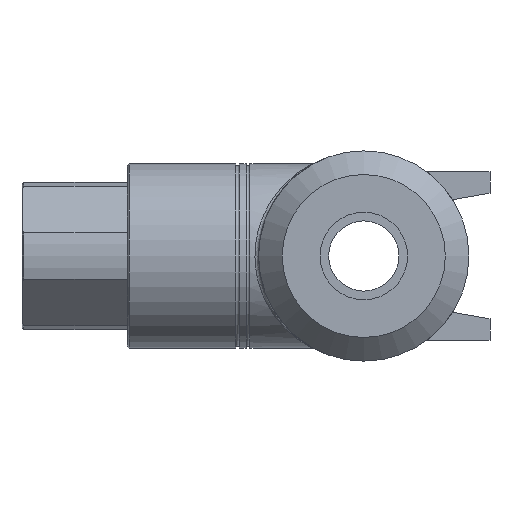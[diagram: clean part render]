
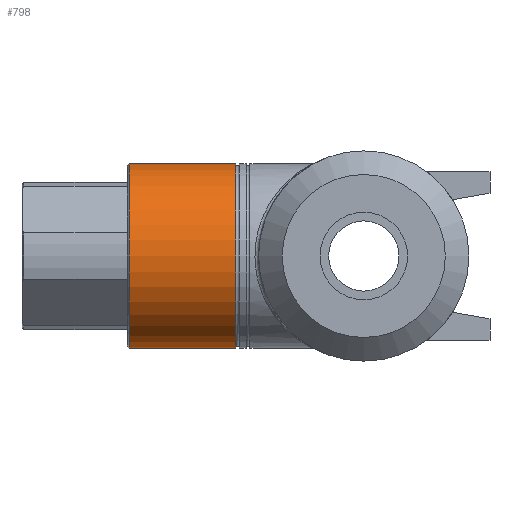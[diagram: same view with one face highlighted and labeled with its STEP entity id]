
A CAD part, left-side view. The second image highlights one B-rep face of the part: STEP entity #798.
In plain terms, the highlighted cylindrical face has radius 35 mm (diameter 70 mm), a full revolution.
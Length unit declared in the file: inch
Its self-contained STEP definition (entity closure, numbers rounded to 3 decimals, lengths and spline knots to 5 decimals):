
#63=CIRCLE('',#885,1.37795);
#64=CIRCLE('',#886,1.37795);
#65=CIRCLE('',#888,1.37795);
#66=CIRCLE('',#889,1.37795);
#67=CIRCLE('',#890,1.37795);
#106=CYLINDRICAL_SURFACE('',#887,1.37795);
#129=FACE_OUTER_BOUND('',#175,.T.);
#175=EDGE_LOOP('',(#617,#618,#619,#620,#621,#622,#623));
#231=LINE('',#1567,#279);
#279=VECTOR('',#1062,1.37795);
#355=VERTEX_POINT('',#1560);
#356=VERTEX_POINT('',#1562);
#357=VERTEX_POINT('',#1566);
#358=VERTEX_POINT('',#1568);
#359=VERTEX_POINT('',#1570);
#458=EDGE_CURVE('',#355,#356,#63,.T.);
#459=EDGE_CURVE('',#356,#355,#64,.T.);
#460=EDGE_CURVE('',#356,#357,#231,.T.);
#461=EDGE_CURVE('',#357,#358,#65,.T.);
#462=EDGE_CURVE('',#358,#359,#66,.T.);
#463=EDGE_CURVE('',#359,#357,#67,.T.);
#617=ORIENTED_EDGE('',*,*,#458,.F.);
#618=ORIENTED_EDGE('',*,*,#459,.F.);
#619=ORIENTED_EDGE('',*,*,#460,.T.);
#620=ORIENTED_EDGE('',*,*,#461,.T.);
#621=ORIENTED_EDGE('',*,*,#462,.T.);
#622=ORIENTED_EDGE('',*,*,#463,.T.);
#623=ORIENTED_EDGE('',*,*,#460,.F.);
#798=ADVANCED_FACE('',(#129),#106,.T.);
#885=AXIS2_PLACEMENT_3D('',#1563,#1056,#1057);
#886=AXIS2_PLACEMENT_3D('',#1564,#1058,#1059);
#887=AXIS2_PLACEMENT_3D('',#1565,#1060,#1061);
#888=AXIS2_PLACEMENT_3D('',#1569,#1063,#1064);
#889=AXIS2_PLACEMENT_3D('',#1571,#1065,#1066);
#890=AXIS2_PLACEMENT_3D('',#1572,#1067,#1068);
#1056=DIRECTION('center_axis',(0.,1.,0.));
#1057=DIRECTION('ref_axis',(1.,0.,0.));
#1058=DIRECTION('center_axis',(0.,1.,0.));
#1059=DIRECTION('ref_axis',(1.,0.,0.));
#1060=DIRECTION('center_axis',(0.,1.,0.));
#1061=DIRECTION('ref_axis',(-1.,0.,0.));
#1062=DIRECTION('',(0.,-1.,0.));
#1063=DIRECTION('center_axis',(0.,1.,0.));
#1064=DIRECTION('ref_axis',(1.,0.,0.));
#1065=DIRECTION('center_axis',(0.,1.,0.));
#1066=DIRECTION('ref_axis',(1.,0.,0.));
#1067=DIRECTION('center_axis',(0.,1.,0.));
#1068=DIRECTION('ref_axis',(1.,0.,0.));
#1560=CARTESIAN_POINT('',(-1.37795,3.51575,0.));
#1562=CARTESIAN_POINT('',(1.37795,3.51575,0.));
#1563=CARTESIAN_POINT('Origin',(0.,3.51575,0.));
#1564=CARTESIAN_POINT('Origin',(0.,3.51575,0.));
#1565=CARTESIAN_POINT('Origin',(0.,2.73031,0.));
#1566=CARTESIAN_POINT('',(1.37795,1.91732,0.));
#1567=CARTESIAN_POINT('',(1.37795,2.73031,0.));
#1568=CARTESIAN_POINT('',(0.,1.91732,-1.37795));
#1569=CARTESIAN_POINT('Origin',(0.,1.91732,0.));
#1570=CARTESIAN_POINT('',(-1.37795,1.91732,0.));
#1571=CARTESIAN_POINT('Origin',(0.,1.91732,0.));
#1572=CARTESIAN_POINT('Origin',(0.,1.91732,0.));
